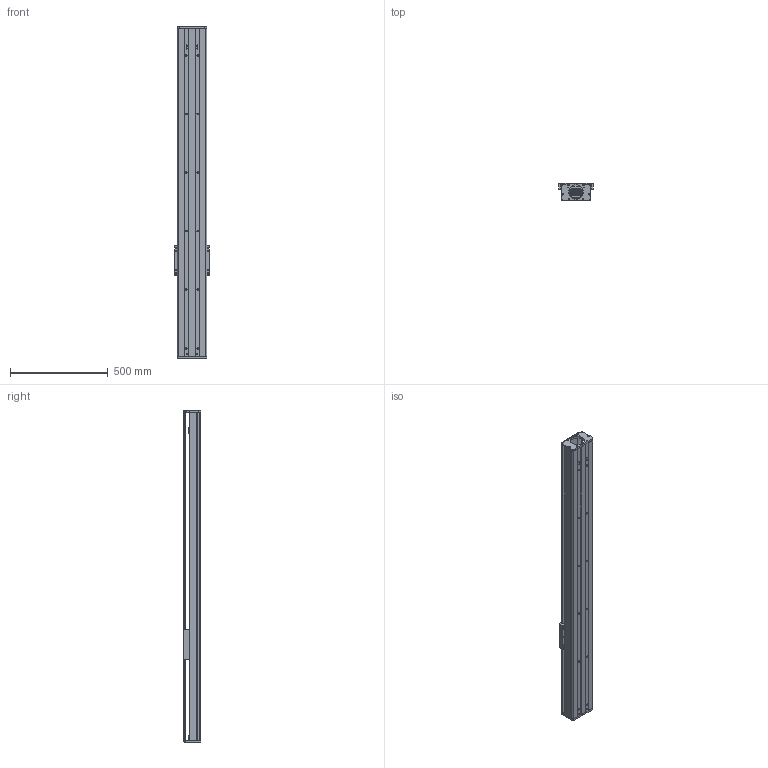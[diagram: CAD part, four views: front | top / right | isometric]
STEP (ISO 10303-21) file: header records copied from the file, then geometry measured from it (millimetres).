
FILE_DESCRIPTION (( 'STEP AP203' ), '1' );
FILE_NAME ('CF150-P1400.STEP', '2016-02-23T05:37:48', ( 'Sky123.Org' ), ( 'Sky123.Org' ), 'SwSTEP 2.0', 'SolidWorks 2015', '' );
FILE_SCHEMA (( 'CONFIG_CONTROL_DESIGN' ));
Length unit declared in the file: millimetre
Products named in the file (20): 150-20蹟譫釱; BK15; 150-86俋离萇儂假蚾啣; SFU2005-3蹟譫; BF15; 蚾饜极2^蚾饜极1; deep groove ball bearings gb_Rolling bearings 6002 GB 276-94; 150賑輸; ѹȦ-15; 150臏倰第; 150耜啣; 长撑圈-15; HGR15絳寢; CF150裔啣; M15X1坶踡蹟譫; hGH15CA賑輸; CF150-P1400; 撑圈-15; BK15+BF15
Assembly tree (24 placements, depth 3):
  CF150-P1400
    150臏倰第
    HGR15絳寢  x2
    hGH15CA賑輸  x4
    BK15+BF15
    150-20蹟譫釱
    150-86俋离萇儂假蚾啣
    BF15
    BK15
      deep groove ball bearings gb_Rolling bearings 6002 GB 276-94  x2
      ѹȦ-15
      长撑圈-15
      M15X1坶踡蹟譫
      撑圈-15
      BK15
    蚾饜极2^蚾饜极1
      SFU2005-3蹟譫
    150賑輸
    150耜啣
    CF150裔啣
Bounding box: 175 x 89 x 1700.24 mm (x, y, z)
Volume: 7691018.4 mm3; surface area: 2392569.5 mm2
Topology: 22 solids, 22 shells, 1472 faces, 4454 edges, 2966 vertices
Faces by surface type: cylinder 727, plane 549, torus 112, sphere 64, cone 16, bspline 4
Entity records: 115680 total; most frequent: CARTESIAN_POINT 85278, ORIENTED_EDGE 6130, DIRECTION 5671, EDGE_CURVE 3065, AXIS2_PLACEMENT_3D 2148, VERTEX_POINT 2040, EDGE_LOOP 1397, VECTOR 1375
